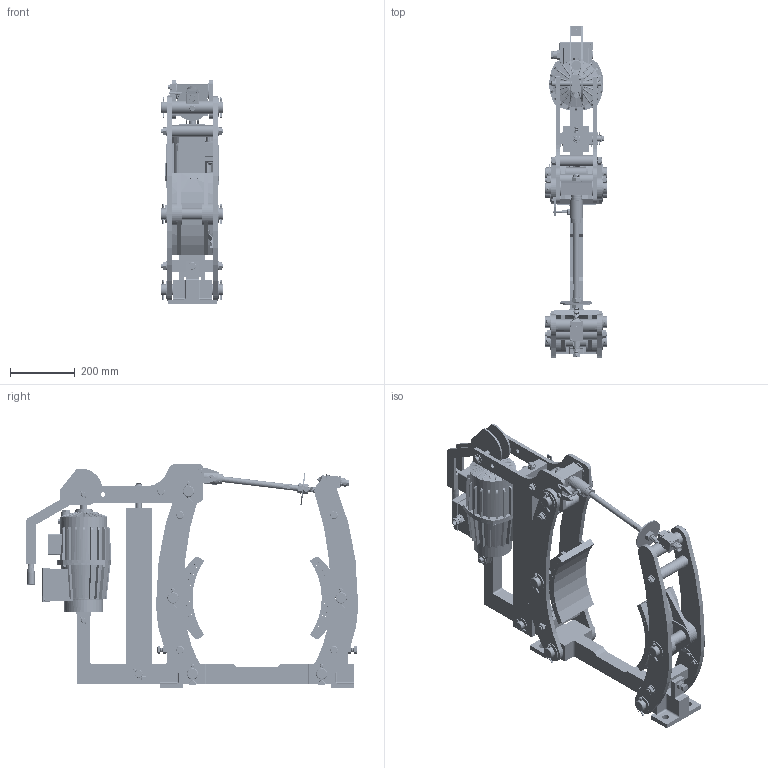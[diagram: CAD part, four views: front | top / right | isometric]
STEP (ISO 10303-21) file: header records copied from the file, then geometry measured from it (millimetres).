
FILE_DESCRIPTION((''),'2;1');
FILE_NAME('4459_404_551_E00001','2018-01-30T',('VORO'),(''),'CREO PARAMETRIC BY PTC INC, 2017170','CREO PARAMETRIC BY PTC INC, 2017170','');
FILE_SCHEMA(('CONFIG_CONTROL_DESIGN'));
Products named in the file (1): 4459_404_551_E00001
Bounding box: 193.97 x 1027.07 x 695.5 mm (x, y, z)
Surface area: 2894926.8 mm2 (no closed solid volume)
Topology: 0 solids, 3118 shells, 3769 faces, 24062 edges, 22705 vertices
Faces by surface type: plane 1466, cylinder 1300, cone 759, torus 203, bspline 37, sphere 4
Entity records: 413477 total; most frequent: CARTESIAN_POINT 135171, PRESENTATION_STYLE_ASSIGNMENT 30929, STYLED_ITEM 27160, DIRECTION 25852, ORIENTED_EDGE 25390, CURVE_STYLE 24042, EDGE_CURVE 24042, VERTEX_POINT 22706
